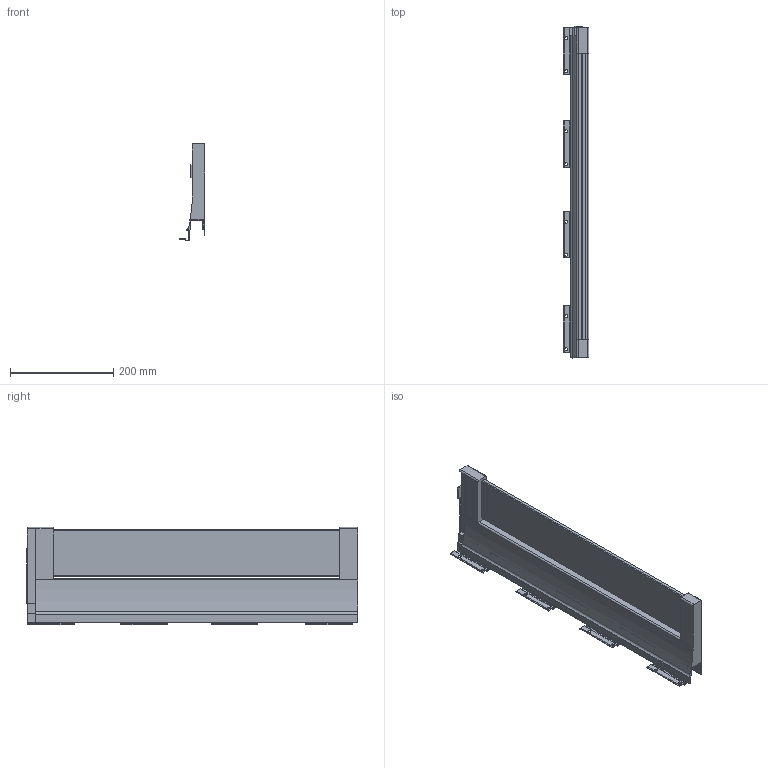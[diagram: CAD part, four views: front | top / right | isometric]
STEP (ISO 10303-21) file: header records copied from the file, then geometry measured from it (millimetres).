
FILE_DESCRIPTION (( 'STEP AP214' ), '1' );
FILE_NAME ('_XP Agantis Dekorseite H95 NL650 RE Top Glashalter.step', '2010-07-08T06:15:49', ( 'grass' ), ( '' ), 'SwSTEP 2.0', 'SolidWorks 2010', '' );
FILE_SCHEMA (( 'AUTOMOTIVE_DESIGN' ));
Length unit declared in the file: millimetre
Products named in the file (1): _XP Agantis Dekorseite H95 NL650 RE Top Glashalter
Bounding box: 50.11 x 642.6 x 188.7 mm (x, y, z)
Volume: 1505851.8 mm3; surface area: 347303.2 mm2
Topology: 1 solids, 1 shells, 190 faces, 560 edges, 365 vertices
Faces by surface type: plane 155, cylinder 35
Entity records: 6322 total; most frequent: ORIENTED_EDGE 1120, CARTESIAN_POINT 1116, DIRECTION 1014, EDGE_CURVE 560, LINE 488, VECTOR 488, VERTEX_POINT 365, AXIS2_PLACEMENT_3D 263
